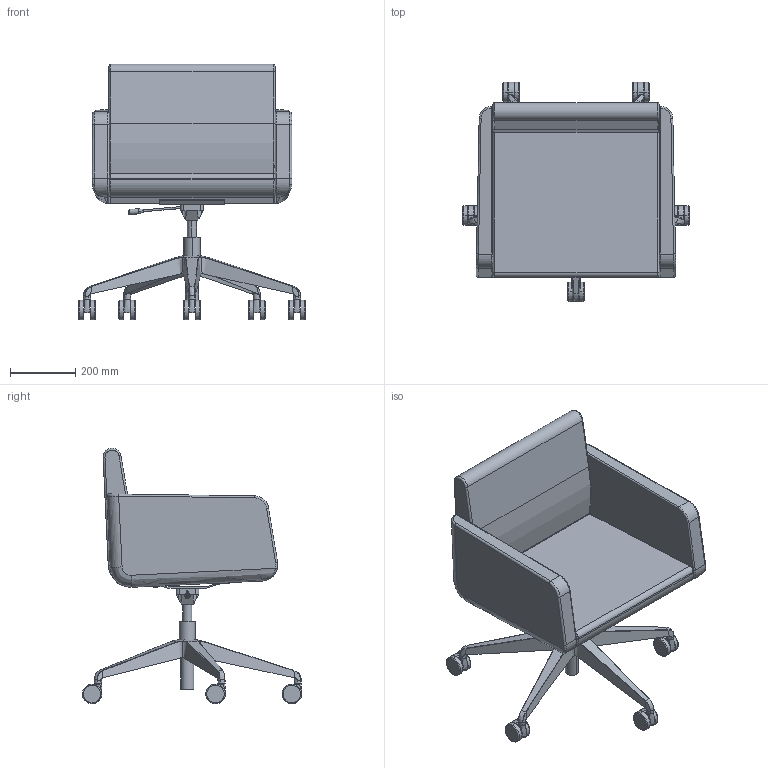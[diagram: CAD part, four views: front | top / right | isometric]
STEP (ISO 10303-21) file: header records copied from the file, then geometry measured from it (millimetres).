
FILE_DESCRIPTION(/* description */ (''),/* implementation_level */ '2;1');
FILE_NAME(/* name */ 'DELTAB~1',/* time_stamp */ '2016-06-29T12:23:38+02:00',/* author */ (''),/* organization */ (''),/* preprocessor_version */ 'ST-DEVELOPER v15',/* originating_system */ '',/* authorisation */ '');
FILE_SCHEMA (('CONFIG_CONTROL_DESIGN'));
Length unit declared in the file: millimetre
Products named in the file (1): Document
Bounding box: 694.82 x 673.73 x 785.18 mm (x, y, z)
Volume: 43112004.8 mm3; surface area: 2096644.2 mm2
Topology: 6 solids, 36 shells, 365 faces, 855 edges, 495 vertices
Faces by surface type: bspline 283, plane 82
Entity records: 16985 total; most frequent: CARTESIAN_POINT 12243, ORIENTED_EDGE 1540, EDGE_CURVE 825, VERTEX_POINT 489, ADVANCED_FACE 365, FACE_OUTER_BOUND 365, EDGE_LOOP 365, B_SPLINE_CURVE_WITH_KNOTS 313
